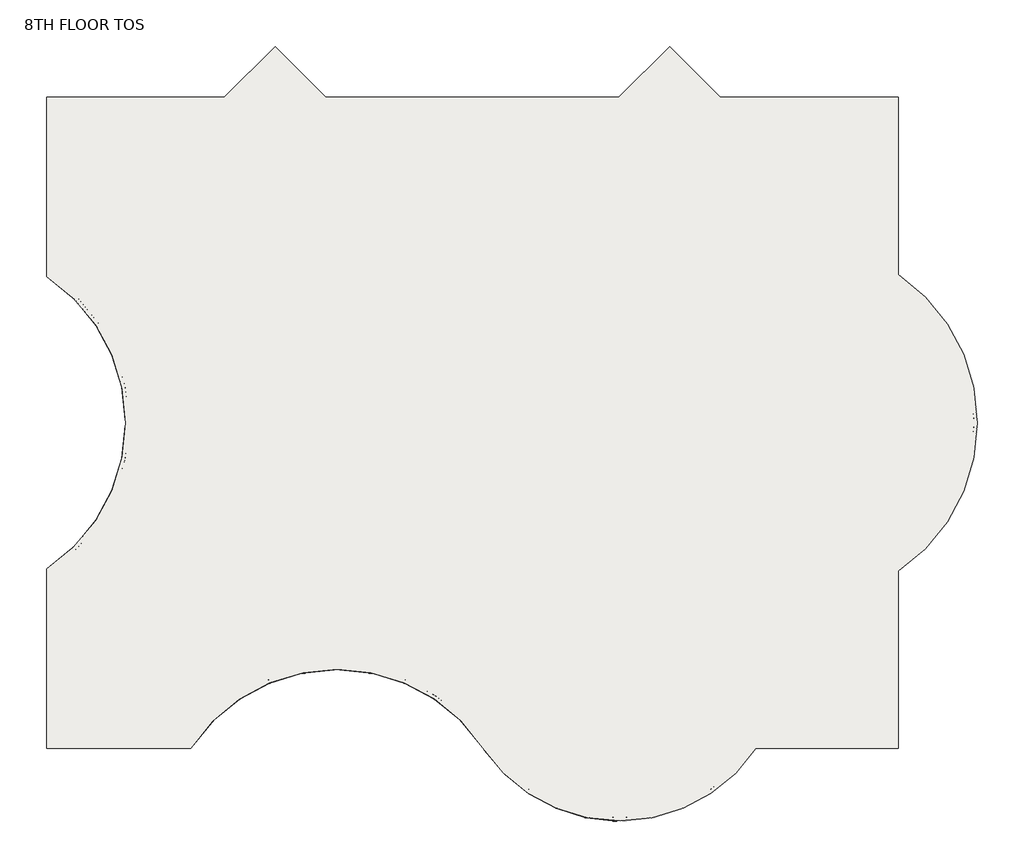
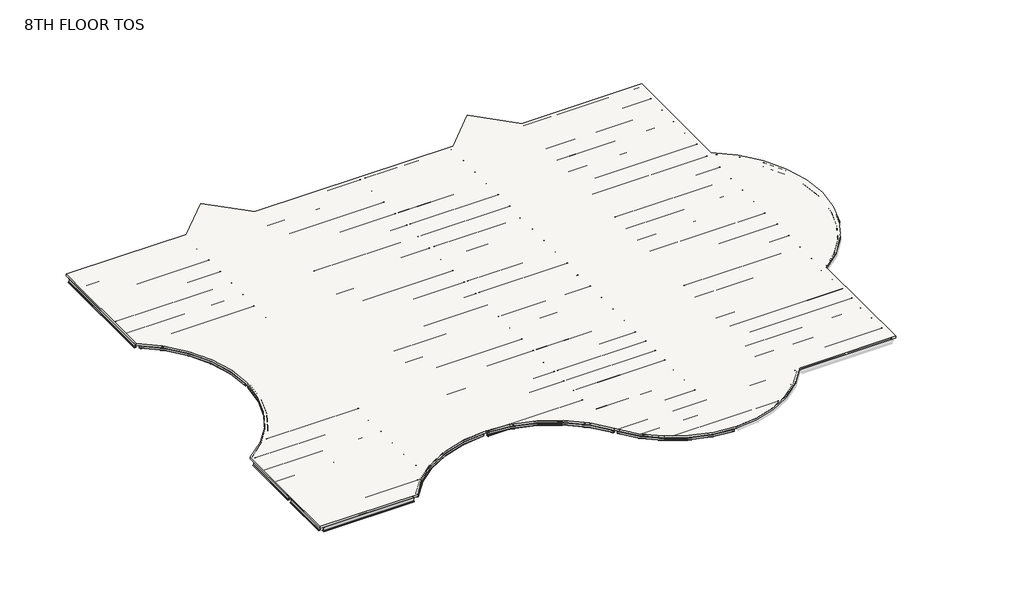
# One storey, part 1 of 2: 86 beams, 1 slab.
"""IFC4 building model written with IfcOpenShell, lengths in millimetres."""

from ifc_helpers import new_model, si_unit, frame, origin, place, context, project, spatial, polyline, circle_curve, transform, mapped, element, save
from ifc_brep_helpers import plane_surface, cylinder_surface, revolved_surface, advanced_brep
from components import m_hss_square_hss203_2x203_2x9_5_914ff4eb, m_hss_square_hss203_2x203_2x9_5_0e3d8e6e, m_hss_square_hss203_2x203_2x9_5_16dc1c03, m_hss_square_hss203_2x203_2x9_5_18346204, m_hss_square_hss203_2x203_2x9_5_d5f1e8c4, ub_universal_beams_ub254x102x28_4e7f3726, ub_universal_beams_ub305x165x40_c4d0385b, ub_universal_beams_ub305x165x40_d3abc31d, ub_universal_beams_ub305x165x40_0c73730f, ub_universal_beams_ub305x165x40_2a963f0c, ub_universal_beams_ub305x165x40_0a5f2f96, ub_universal_beams_ub305x165x40_d1f7c369, ub_universal_beams_ub305x165x40_83d7b7d5, ub_universal_beams_ub305x165x40_729a4ea5, ub_universal_beams_ub305x165x40_71dfa851, ub_universal_beams_ub305x165x40_619b5398, ub_universal_beams_ub305x165x40_c3492db1, ub_universal_beams_ub305x165x40_8f1c350d, ub_universal_beams_ub305x165x40_3afb5f90, ub_universal_beams_ub305x165x40_767d1929, ub_universal_beams_ub305x165x40_5941ca45, ub_universal_beams_ub356x171x51_ef72dcdd, ub_universal_beams_ub356x171x51_7f80702c, ub_universal_beams_ub356x171x51_dfc36663, ub_universal_beams_ub356x171x51_405a853e, ub_universal_beams_ub356x171x51_e47b7055, ub_universal_beams_ub356x171x51_e97f8d2e, ub_universal_beams_ub356x171x51_11d6b780, ub_universal_beams_ub356x171x51_76b2d20b, ub_universal_beams_ub356x171x51_145ecd4b, ub_universal_beams_ub356x171x51_c7dff8d2, ub_universal_beams_ub356x171x51_834c6e34, ub_universal_beams_ub356x171x51_a38b99de, ub_universal_beams_ub356x171x51_d8f4cdde, ub_universal_beams_ub356x171x51_8094f821, ub_universal_beams_ub356x171x51_e661f2e4, ub_universal_beams_ub356x171x51_3ee91673, ub_universal_beams_ub356x171x51_a871b283, ub_universal_beams_ub356x171x51_741bae58

model = new_model("IFC4")

# Units and contexts
model_context = context("Model", 3, world=origin())
ifc_project = project(units=[si_unit("LENGTHUNIT", "METRE", prefix="MILLI")], contexts=[model_context])

# Site, building, storey
site = spatial("IfcSite", under=ifc_project)
building = spatial("IfcBuilding", under=site)
storey = spatial("IfcBuildingStorey", under=building, Name="8TH FLOOR TOS", Elevation=36423.6)

# Beams
placement = place(None, origin())
m_hss_square_hss203_2x203_2x9_5_shape = m_hss_square_hss203_2x203_2x9_5_914ff4eb(model_context)
element("IfcBeam", 1, ObjectType="M_HSS Square : HSS203.2X203.2X9.5", at=placement, inside=storey, context=model_context, shape_type="MappedRepresentation", body=[
    mapped(m_hss_square_hss203_2x203_2x9_5_shape, transform((22710.575, 155.575, 36322.1), x_axis=(-0.552849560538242, 0.8332810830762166, 0.0), y_axis=(-0.8332810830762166, -0.552849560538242, 0.0), z_axis=(0.0, 0.0, 1.0))),
])
m_hss_square_hss203_2x203_2x9_5_2_shape = m_hss_square_hss203_2x203_2x9_5_0e3d8e6e(model_context)
element("IfcBeam", 2, ObjectType="M_HSS Square : HSS203.2X203.2X9.5", at=placement, inside=storey, context=model_context, shape_type="MappedRepresentation", body=[
    mapped(m_hss_square_hss203_2x203_2x9_5_2_shape, transform((155.575, 9299.575, 36322.1), x_axis=(0.8332810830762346, 0.5528495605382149, 0.0), y_axis=(-0.5528495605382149, 0.8332810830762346, 0.0), z_axis=(0.0, 0.0, 1.0))),
])
m_hss_square_hss203_2x203_2x9_5_3_shape = m_hss_square_hss203_2x203_2x9_5_16dc1c03(model_context)
element("IfcBeam", 3, ObjectType="M_HSS Square : HSS203.2X203.2X9.5", at=placement, inside=storey, context=model_context, shape_type="MappedRepresentation", body=[
    mapped(m_hss_square_hss203_2x203_2x9_5_3_shape, transform((155.575, 24539.575, 36322.1), x_axis=(0.8332810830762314, -0.5528495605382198, 0.0), y_axis=(0.5528495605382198, 0.8332810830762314, 0.0), z_axis=(0.0, 0.0, 1.0))),
])
m_hss_square_hss203_2x203_2x9_5_4_shape = m_hss_square_hss203_2x203_2x9_5_18346204(model_context)
element("IfcBeam", 4, ObjectType="M_HSS Square : HSS203.2X203.2X9.5", at=placement, inside=storey, context=model_context, shape_type="MappedRepresentation", body=[
    mapped(m_hss_square_hss203_2x203_2x9_5_4_shape, transform((29734.7266693, -3601.398624, 36322.1), x_axis=(-0.9999968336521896, -0.0025164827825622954, 0.0), y_axis=(0.0025164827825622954, -0.9999968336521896, 0.0), z_axis=(0.0, 0.0, 1.0))),
])
m_hss_square_hss203_2x203_2x9_5_5_shape = m_hss_square_hss203_2x203_2x9_5_d5f1e8c4(model_context)
element("IfcBeam", 5, ObjectType="M_HSS Square : HSS203.2X203.2X9.5", at=placement, inside=storey, context=model_context, shape_type="MappedRepresentation", body=[
    mapped(m_hss_square_hss203_2x203_2x9_5_5_shape, transform((15096.4572854, 4244.5731081, 36322.1), x_axis=(-0.9999997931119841, 0.0006432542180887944, 0.0), y_axis=(-0.0006432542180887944, -0.9999997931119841, 0.0), z_axis=(0.0, 0.0, 1.0))),
])
ub_universal_beams_ub254x102x28_shape = ub_universal_beams_ub254x102x28_4e7f3726(model_context)
element("IfcBeam", 6, ObjectType="UB-Universal Beams : UB254x102x28", at=placement, inside=storey, context=model_context, shape_type="MappedRepresentation", body=[
    mapped(ub_universal_beams_ub254x102x28_shape, transform((9299.575, 3210.915913, 36293.4), x_axis=(0.0, -1.0, 0.0), y_axis=(1.0, 0.0, 0.0), z_axis=(0.0, 0.0, 1.0))),
])
ub_universal_beams_ub305x165x40_shape = ub_universal_beams_ub305x165x40_c4d0385b(model_context)
element("IfcBeam", 7, ObjectType="UB-Universal Beams : UB305x165x40", at=placement, inside=storey, context=model_context, shape_type="MappedRepresentation", body=[
    mapped(ub_universal_beams_ub305x165x40_shape, transform((4727.575, 30635.575, 36271.9), x_axis=(1.0, 0.0, 0.0), y_axis=(0.0, 1.0, 0.0), z_axis=(0.0, 0.0, 1.0))),
])
element("IfcBeam", 8, ObjectType="UB-Universal Beams : UB305x165x40", at=placement, inside=storey, context=model_context, shape_type="MappedRepresentation", body=[
    mapped(ub_universal_beams_ub305x165x40_shape, transform((4727.575, 29111.575, 36271.9), x_axis=(1.0, 0.0, 0.0), y_axis=(0.0, 1.0, 0.0), z_axis=(0.0, 0.0, 1.0))),
])
element("IfcBeam", 9, ObjectType="UB-Universal Beams : UB305x165x40", at=placement, inside=storey, context=model_context, shape_type="MappedRepresentation", body=[
    mapped(ub_universal_beams_ub305x165x40_shape, transform((4727.575, 27587.575, 36271.9), x_axis=(1.0, 0.0, 0.0), y_axis=(0.0, 1.0, 0.0), z_axis=(0.0, 0.0, 1.0))),
])
element("IfcBeam", 10, ObjectType="UB-Universal Beams : UB305x165x40", at=placement, inside=storey, context=model_context, shape_type="MappedRepresentation", body=[
    mapped(ub_universal_beams_ub305x165x40_shape, transform((4727.575, 26063.575, 36271.9), x_axis=(1.0, 0.0, 0.0), y_axis=(0.0, 1.0, 0.0), z_axis=(0.0, 0.0, 1.0))),
])
element("IfcBeam", 11, ObjectType="UB-Universal Beams : UB305x165x40", at=placement, inside=storey, context=model_context, shape_type="MappedRepresentation", body=[
    mapped(ub_universal_beams_ub305x165x40_shape, transform((4727.575, 4727.575, 36271.9), x_axis=(-1.0, 0.0, 0.0), y_axis=(0.0, -1.0, 0.0), z_axis=(0.0, 0.0, 1.0))),
])
element("IfcBeam", 12, ObjectType="UB-Universal Beams : UB305x165x40", at=placement, inside=storey, context=model_context, shape_type="MappedRepresentation", body=[
    mapped(ub_universal_beams_ub305x165x40_shape, transform((4727.575, 6251.575, 36271.9), x_axis=(-1.0, 0.0, 0.0), y_axis=(0.0, -1.0, 0.0), z_axis=(0.0, 0.0, 1.0))),
])
element("IfcBeam", 13, ObjectType="UB-Universal Beams : UB305x165x40", at=placement, inside=storey, context=model_context, shape_type="MappedRepresentation", body=[
    mapped(ub_universal_beams_ub305x165x40_shape, transform((4727.575, 7775.575, 36271.9), x_axis=(-1.0, 0.0, 0.0), y_axis=(0.0, -1.0, 0.0), z_axis=(0.0, 0.0, 1.0))),
])
ub_universal_beams_ub305x165x40_2_shape = ub_universal_beams_ub305x165x40_d3abc31d(model_context)
element("IfcBeam", 14, ObjectType="UB-Universal Beams : UB305x165x40", at=placement, inside=storey, context=model_context, shape_type="MappedRepresentation", body=[
    mapped(ub_universal_beams_ub305x165x40_2_shape, transform((11885.575, 28938.325, 36271.9), x_axis=(1.0, 0.0, 0.0), y_axis=(0.0, 1.0, 0.0), z_axis=(0.0, 0.0, 1.0))),
])
element("IfcBeam", 15, ObjectType="UB-Universal Beams : UB305x165x40", at=placement, inside=storey, context=model_context, shape_type="MappedRepresentation", body=[
    mapped(ub_universal_beams_ub305x165x40_2_shape, transform((11885.575, 27472.075, 36271.9), x_axis=(1.0, 0.0, 0.0), y_axis=(0.0, 1.0, 0.0), z_axis=(0.0, 0.0, 1.0))),
])
element("IfcBeam", 16, ObjectType="UB-Universal Beams : UB305x165x40", at=placement, inside=storey, context=model_context, shape_type="MappedRepresentation", body=[
    mapped(ub_universal_beams_ub305x165x40_2_shape, transform((11885.575, 26005.825, 36271.9), x_axis=(1.0, 0.0, 0.0), y_axis=(0.0, 1.0, 0.0), z_axis=(0.0, 0.0, 1.0))),
])
element("IfcBeam", 17, ObjectType="UB-Universal Beams : UB305x165x40", at=placement, inside=storey, context=model_context, shape_type="MappedRepresentation", body=[
    mapped(ub_universal_beams_ub305x165x40_2_shape, transform((11885.575, 23015.575, 36271.9), x_axis=(1.0, 0.0, 0.0), y_axis=(0.0, 1.0, 0.0), z_axis=(0.0, 0.0, 1.0))),
])
element("IfcBeam", 18, ObjectType="UB-Universal Beams : UB305x165x40", at=placement, inside=storey, context=model_context, shape_type="MappedRepresentation", body=[
    mapped(ub_universal_beams_ub305x165x40_2_shape, transform((11885.575, 21491.575, 36271.9), x_axis=(1.0, 0.0, 0.0), y_axis=(0.0, 1.0, 0.0), z_axis=(0.0, 0.0, 1.0))),
])
element("IfcBeam", 19, ObjectType="UB-Universal Beams : UB305x165x40", at=placement, inside=storey, context=model_context, shape_type="MappedRepresentation", body=[
    mapped(ub_universal_beams_ub305x165x40_2_shape, transform((11885.575, 19967.575, 36271.9), x_axis=(1.0, 0.0, 0.0), y_axis=(0.0, 1.0, 0.0), z_axis=(0.0, 0.0, 1.0))),
])
element("IfcBeam", 20, ObjectType="UB-Universal Beams : UB305x165x40", at=placement, inside=storey, context=model_context, shape_type="MappedRepresentation", body=[
    mapped(ub_universal_beams_ub305x165x40_2_shape, transform((11885.575, 18443.575, 36271.9), x_axis=(1.0, 0.0, 0.0), y_axis=(0.0, 1.0, 0.0), z_axis=(0.0, 0.0, 1.0))),
])
element("IfcBeam", 21, ObjectType="UB-Universal Beams : UB305x165x40", at=placement, inside=storey, context=model_context, shape_type="MappedRepresentation", body=[
    mapped(ub_universal_beams_ub305x165x40_2_shape, transform((11885.575, 15395.575, 36271.9), x_axis=(1.0, 0.0, 0.0), y_axis=(0.0, 1.0, 0.0), z_axis=(0.0, 0.0, 1.0))),
])
element("IfcBeam", 22, ObjectType="UB-Universal Beams : UB305x165x40", at=placement, inside=storey, context=model_context, shape_type="MappedRepresentation", body=[
    mapped(ub_universal_beams_ub305x165x40_2_shape, transform((11885.575, 13871.575, 36271.9), x_axis=(1.0, 0.0, 0.0), y_axis=(0.0, 1.0, 0.0), z_axis=(0.0, 0.0, 1.0))),
])
element("IfcBeam", 23, ObjectType="UB-Universal Beams : UB305x165x40", at=placement, inside=storey, context=model_context, shape_type="MappedRepresentation", body=[
    mapped(ub_universal_beams_ub305x165x40_2_shape, transform((11885.575, 12347.575, 36271.9), x_axis=(1.0, 0.0, 0.0), y_axis=(0.0, 1.0, 0.0), z_axis=(0.0, 0.0, 1.0))),
])
element("IfcBeam", 24, ObjectType="UB-Universal Beams : UB305x165x40", at=placement, inside=storey, context=model_context, shape_type="MappedRepresentation", body=[
    mapped(ub_universal_beams_ub305x165x40_2_shape, transform((11885.575, 10823.575, 36271.9), x_axis=(1.0, 0.0, 0.0), y_axis=(0.0, 1.0, 0.0), z_axis=(0.0, 0.0, 1.0))),
])
element("IfcBeam", 25, ObjectType="UB-Universal Beams : UB305x165x40", at=placement, inside=storey, context=model_context, shape_type="MappedRepresentation", body=[
    mapped(ub_universal_beams_ub305x165x40_2_shape, transform((11885.575, 5026.1840956, 36271.9), x_axis=(-1.0, 0.0, 0.0), y_axis=(0.0, -1.0, 0.0), z_axis=(0.0, 0.0, 1.0))),
])
element("IfcBeam", 26, ObjectType="UB-Universal Beams : UB305x165x40", at=placement, inside=storey, context=model_context, shape_type="MappedRepresentation", body=[
    mapped(ub_universal_beams_ub305x165x40_2_shape, transform((11885.575, 6450.6477304, 36271.9), x_axis=(-1.0, 0.0, 0.0), y_axis=(0.0, -1.0, 0.0), z_axis=(0.0, 0.0, 1.0))),
])
element("IfcBeam", 27, ObjectType="UB-Universal Beams : UB305x165x40", at=placement, inside=storey, context=model_context, shape_type="MappedRepresentation", body=[
    mapped(ub_universal_beams_ub305x165x40_2_shape, transform((11885.575, 7875.1113652, 36271.9), x_axis=(-1.0, 0.0, 0.0), y_axis=(0.0, -1.0, 0.0), z_axis=(0.0, 0.0, 1.0))),
])
ub_universal_beams_ub305x165x40_3_shape = ub_universal_beams_ub305x165x40_0c73730f(model_context)
element("IfcBeam", 28, ObjectType="UB-Universal Beams : UB305x165x40", at=placement, inside=storey, context=model_context, shape_type="MappedRepresentation", body=[
    mapped(ub_universal_beams_ub305x165x40_3_shape, transform((18591.075, 5492.5943214, 36271.9), x_axis=(-1.0, 0.0, 0.0), y_axis=(0.0, -1.0, 0.0), z_axis=(0.0, 0.0, 1.0))),
])
element("IfcBeam", 29, ObjectType="UB-Universal Beams : UB305x165x40", at=placement, inside=storey, context=model_context, shape_type="MappedRepresentation", body=[
    mapped(ub_universal_beams_ub305x165x40_3_shape, transform((18591.075, 6761.5878809, 36271.9), x_axis=(-1.0, 0.0, 0.0), y_axis=(0.0, -1.0, 0.0), z_axis=(0.0, 0.0, 1.0))),
])
element("IfcBeam", 30, ObjectType="UB-Universal Beams : UB305x165x40", at=placement, inside=storey, context=model_context, shape_type="MappedRepresentation", body=[
    mapped(ub_universal_beams_ub305x165x40_3_shape, transform((18591.075, 8030.5814405, 36271.9), x_axis=(-1.0, 0.0, 0.0), y_axis=(0.0, -1.0, 0.0), z_axis=(0.0, 0.0, 1.0))),
])
element("IfcBeam", 31, ObjectType="UB-Universal Beams : UB305x165x40", at=placement, inside=storey, context=model_context, shape_type="MappedRepresentation", body=[
    mapped(ub_universal_beams_ub305x165x40_3_shape, transform((18591.075, 15395.575, 36271.9), x_axis=(1.0, 0.0, 0.0), y_axis=(0.0, 1.0, 0.0), z_axis=(0.0, 0.0, 1.0))),
])
element("IfcBeam", 32, ObjectType="UB-Universal Beams : UB305x165x40", at=placement, inside=storey, context=model_context, shape_type="MappedRepresentation", body=[
    mapped(ub_universal_beams_ub305x165x40_3_shape, transform((18591.075, 13871.575, 36271.9), x_axis=(1.0, 0.0, 0.0), y_axis=(0.0, 1.0, 0.0), z_axis=(0.0, 0.0, 1.0))),
])
element("IfcBeam", 33, ObjectType="UB-Universal Beams : UB305x165x40", at=placement, inside=storey, context=model_context, shape_type="MappedRepresentation", body=[
    mapped(ub_universal_beams_ub305x165x40_3_shape, transform((18591.075, 12347.575, 36271.9), x_axis=(1.0, 0.0, 0.0), y_axis=(0.0, 1.0, 0.0), z_axis=(0.0, 0.0, 1.0))),
])
element("IfcBeam", 34, ObjectType="UB-Universal Beams : UB305x165x40", at=placement, inside=storey, context=model_context, shape_type="MappedRepresentation", body=[
    mapped(ub_universal_beams_ub305x165x40_3_shape, transform((18591.075, 10823.575, 36271.9), x_axis=(1.0, 0.0, 0.0), y_axis=(0.0, 1.0, 0.0), z_axis=(0.0, 0.0, 1.0))),
])
ub_universal_beams_ub305x165x40_4_shape = ub_universal_beams_ub305x165x40_2a963f0c(model_context)
element("IfcBeam", 35, ObjectType="UB-Universal Beams : UB305x165x40", at=placement, inside=storey, context=model_context, shape_type="MappedRepresentation", body=[
    mapped(ub_universal_beams_ub305x165x40_4_shape, transform((26211.075, 15395.575, 36271.9), x_axis=(1.0, 0.0, 0.0), y_axis=(0.0, 1.0, 0.0), z_axis=(0.0, 0.0, 1.0))),
])
element("IfcBeam", 36, ObjectType="UB-Universal Beams : UB305x165x40", at=placement, inside=storey, context=model_context, shape_type="MappedRepresentation", body=[
    mapped(ub_universal_beams_ub305x165x40_4_shape, transform((26211.075, 13871.575, 36271.9), x_axis=(1.0, 0.0, 0.0), y_axis=(0.0, 1.0, 0.0), z_axis=(0.0, 0.0, 1.0))),
])
element("IfcBeam", 37, ObjectType="UB-Universal Beams : UB305x165x40", at=placement, inside=storey, context=model_context, shape_type="MappedRepresentation", body=[
    mapped(ub_universal_beams_ub305x165x40_4_shape, transform((26211.075, 12347.575, 36271.9), x_axis=(1.0, 0.0, 0.0), y_axis=(0.0, 1.0, 0.0), z_axis=(0.0, 0.0, 1.0))),
])
element("IfcBeam", 38, ObjectType="UB-Universal Beams : UB305x165x40", at=placement, inside=storey, context=model_context, shape_type="MappedRepresentation", body=[
    mapped(ub_universal_beams_ub305x165x40_4_shape, transform((26211.075, 10823.575, 36271.9), x_axis=(1.0, 0.0, 0.0), y_axis=(0.0, 1.0, 0.0), z_axis=(0.0, 0.0, 1.0))),
])
element("IfcBeam", 39, ObjectType="UB-Universal Beams : UB305x165x40", at=placement, inside=storey, context=model_context, shape_type="MappedRepresentation", body=[
    mapped(ub_universal_beams_ub305x165x40_4_shape, transform((26211.075, 5508.325, 36271.9), x_axis=(-1.0, 0.0, 0.0), y_axis=(0.0, -1.0, 0.0), z_axis=(0.0, 0.0, 1.0))),
])
element("IfcBeam", 40, ObjectType="UB-Universal Beams : UB305x165x40", at=placement, inside=storey, context=model_context, shape_type="MappedRepresentation", body=[
    mapped(ub_universal_beams_ub305x165x40_4_shape, transform((26211.075, 6772.075, 36271.9), x_axis=(-1.0, 0.0, 0.0), y_axis=(0.0, -1.0, 0.0), z_axis=(0.0, 0.0, 1.0))),
])
element("IfcBeam", 41, ObjectType="UB-Universal Beams : UB305x165x40", at=placement, inside=storey, context=model_context, shape_type="MappedRepresentation", body=[
    mapped(ub_universal_beams_ub305x165x40_4_shape, transform((26211.075, 8035.825, 36271.9), x_axis=(-1.0, 0.0, 0.0), y_axis=(0.0, -1.0, 0.0), z_axis=(0.0, 0.0, 1.0))),
])
element("IfcBeam", 42, ObjectType="UB-Universal Beams : UB305x165x40", at=placement, inside=storey, context=model_context, shape_type="MappedRepresentation", body=[
    mapped(ub_universal_beams_ub305x165x40_4_shape, transform((26211.075, 1518.575, 36271.9), x_axis=(-1.0, 0.0, 0.0), y_axis=(0.0, -1.0, 0.0), z_axis=(0.0, 0.0, 1.0))),
])
element("IfcBeam", 43, ObjectType="UB-Universal Beams : UB305x165x40", at=placement, inside=storey, context=model_context, shape_type="MappedRepresentation", body=[
    mapped(ub_universal_beams_ub305x165x40_4_shape, transform((26211.075, 2881.575, 36271.9), x_axis=(-1.0, 0.0, 0.0), y_axis=(0.0, -1.0, 0.0), z_axis=(0.0, 0.0, 1.0))),
])
ub_universal_beams_ub305x165x40_5_shape = ub_universal_beams_ub305x165x40_0a5f2f96(model_context)
element("IfcBeam", 44, ObjectType="UB-Universal Beams : UB305x165x40", at=placement, inside=storey, context=model_context, shape_type="MappedRepresentation", body=[
    mapped(ub_universal_beams_ub305x165x40_5_shape, transform((29713.575, -2349.0918253, 36271.9), x_axis=(-1.0, 0.0, 0.0), y_axis=(0.0, -1.0, 0.0), z_axis=(0.0, 0.0, 1.0))),
])
ub_universal_beams_ub305x165x40_6_shape = ub_universal_beams_ub305x165x40_d1f7c369(model_context)
element("IfcBeam", 45, ObjectType="UB-Universal Beams : UB305x165x40", at=placement, inside=storey, context=model_context, shape_type="MappedRepresentation", body=[
    mapped(ub_universal_beams_ub305x165x40_6_shape, transform((29713.575, -1096.7584126, 36271.9), x_axis=(-1.0, 0.0, 0.0), y_axis=(0.0, -1.0, 0.0), z_axis=(0.0, 0.0, 1.0))),
])
ub_universal_beams_ub305x165x40_7_shape = ub_universal_beams_ub305x165x40_83d7b7d5(model_context)
element("IfcBeam", 46, ObjectType="UB-Universal Beams : UB305x165x40", at=placement, inside=storey, context=model_context, shape_type="MappedRepresentation", body=[
    mapped(ub_universal_beams_ub305x165x40_7_shape, transform((22157.3041106, 1518.575, 36271.9), x_axis=(-1.0, 0.0, 0.0), y_axis=(0.0, -1.0, 0.0), z_axis=(0.0, 0.0, 1.0))),
])
ub_universal_beams_ub305x165x40_8_shape = ub_universal_beams_ub305x165x40_729a4ea5(model_context)
element("IfcBeam", 47, ObjectType="UB-Universal Beams : UB305x165x40", at=placement, inside=storey, context=model_context, shape_type="MappedRepresentation", body=[
    mapped(ub_universal_beams_ub305x165x40_8_shape, transform((21302.1545844, 2881.575, 36271.9), x_axis=(-1.0, 0.0, 0.0), y_axis=(0.0, -1.0, 0.0), z_axis=(0.0, 0.0, 1.0))),
])
ub_universal_beams_ub305x165x40_9_shape = ub_universal_beams_ub305x165x40_71dfa851(model_context)
element("IfcBeam", 48, ObjectType="UB-Universal Beams : UB305x165x40", at=placement, inside=storey, context=model_context, shape_type="MappedRepresentation", body=[
    mapped(ub_universal_beams_ub305x165x40_9_shape, transform((10511.0323166, 3601.7204608, 36271.9), x_axis=(-1.0, 0.0, 0.0), y_axis=(0.0, -1.0, 0.0), z_axis=(0.0, 0.0, 1.0))),
])
ub_universal_beams_ub305x165x40_10_shape = ub_universal_beams_ub305x165x40_619b5398(model_context)
element("IfcBeam", 49, ObjectType="UB-Universal Beams : UB305x165x40", at=placement, inside=storey, context=model_context, shape_type="MappedRepresentation", body=[
    mapped(ub_universal_beams_ub305x165x40_10_shape, transform((4447.6838282, 1679.575, 36271.9), x_axis=(-1.0, 0.0, 0.0), y_axis=(0.0, -1.0, 0.0), z_axis=(0.0, 0.0, 1.0))),
])
ub_universal_beams_ub305x165x40_11_shape = ub_universal_beams_ub305x165x40_c3492db1(model_context)
element("IfcBeam", 50, ObjectType="UB-Universal Beams : UB305x165x40", at=placement, inside=storey, context=model_context, shape_type="MappedRepresentation", body=[
    mapped(ub_universal_beams_ub305x165x40_11_shape, transform((4727.575, 3203.575, 36271.9), x_axis=(-1.0, 0.0, 0.0), y_axis=(0.0, -1.0, 0.0), z_axis=(0.0, 0.0, 1.0))),
])
ub_universal_beams_ub305x165x40_12_shape = ub_universal_beams_ub305x165x40_8f1c350d(model_context)
element("IfcBeam", 51, ObjectType="UB-Universal Beams : UB305x165x40", at=placement, inside=storey, context=model_context, shape_type="MappedRepresentation", body=[
    mapped(ub_universal_beams_ub305x165x40_12_shape, transform((6708.1318611, 15395.575, 36271.9), x_axis=(1.0, 0.0, 0.0), y_axis=(0.0, 1.0, 0.0), z_axis=(0.0, 0.0, 1.0))),
])
element("IfcBeam", 52, ObjectType="UB-Universal Beams : UB305x165x40", at=placement, inside=storey, context=model_context, shape_type="MappedRepresentation", body=[
    mapped(ub_universal_beams_ub305x165x40_12_shape, transform((6708.1318611, 18443.575, 36271.9), x_axis=(1.0, 0.0, 0.0), y_axis=(0.0, 1.0, 0.0), z_axis=(0.0, 0.0, 1.0))),
])
ub_universal_beams_ub305x165x40_13_shape = ub_universal_beams_ub305x165x40_3afb5f90(model_context)
element("IfcBeam", 53, ObjectType="UB-Universal Beams : UB305x165x40", at=placement, inside=storey, context=model_context, shape_type="MappedRepresentation", body=[
    mapped(ub_universal_beams_ub305x165x40_13_shape, transform((6510.6153272, 13871.575, 36271.9), x_axis=(1.0, 0.0, 0.0), y_axis=(0.0, 1.0, 0.0), z_axis=(0.0, 0.0, 1.0))),
])
element("IfcBeam", 54, ObjectType="UB-Universal Beams : UB305x165x40", at=placement, inside=storey, context=model_context, shape_type="MappedRepresentation", body=[
    mapped(ub_universal_beams_ub305x165x40_13_shape, transform((6510.6153272, 19967.575, 36271.9), x_axis=(1.0, 0.0, 0.0), y_axis=(0.0, 1.0, 0.0), z_axis=(0.0, 0.0, 1.0))),
])
ub_universal_beams_ub305x165x40_14_shape = ub_universal_beams_ub305x165x40_767d1929(model_context)
element("IfcBeam", 55, ObjectType="UB-Universal Beams : UB305x165x40", at=placement, inside=storey, context=model_context, shape_type="MappedRepresentation", body=[
    mapped(ub_universal_beams_ub305x165x40_14_shape, transform((6159.5874928, 12347.575, 36271.9), x_axis=(1.0, 0.0, 0.0), y_axis=(0.0, 1.0, 0.0), z_axis=(0.0, 0.0, 1.0))),
])
element("IfcBeam", 56, ObjectType="UB-Universal Beams : UB305x165x40", at=placement, inside=storey, context=model_context, shape_type="MappedRepresentation", body=[
    mapped(ub_universal_beams_ub305x165x40_14_shape, transform((6159.5874928, 21491.575, 36271.9), x_axis=(1.0, 0.0, 0.0), y_axis=(0.0, 1.0, 0.0), z_axis=(0.0, 0.0, 1.0))),
])
ub_universal_beams_ub305x165x40_15_shape = ub_universal_beams_ub305x165x40_5941ca45(model_context)
element("IfcBeam", 57, ObjectType="UB-Universal Beams : UB305x165x40", at=placement, inside=storey, context=model_context, shape_type="MappedRepresentation", body=[
    mapped(ub_universal_beams_ub305x165x40_15_shape, transform((5607.9405309, 10823.575, 36271.9), x_axis=(1.0, 0.0, 0.0), y_axis=(0.0, 1.0, 0.0), z_axis=(0.0, 0.0, 1.0))),
])
element("IfcBeam", 58, ObjectType="UB-Universal Beams : UB305x165x40", at=placement, inside=storey, context=model_context, shape_type="MappedRepresentation", body=[
    mapped(ub_universal_beams_ub305x165x40_15_shape, transform((5607.9405309, 23015.575, 36271.9), x_axis=(1.0, 0.0, 0.0), y_axis=(0.0, 1.0, 0.0), z_axis=(0.0, 0.0, 1.0))),
])
ub_universal_beams_ub356x171x51_shape = ub_universal_beams_ub356x171x51_ef72dcdd(model_context)
element("IfcBeam", 59, ObjectType="UB-Universal Beams : UB356x171x51", at=placement, inside=storey, context=model_context, shape_type="MappedRepresentation", body=[
    mapped(ub_universal_beams_ub356x171x51_shape, transform((9299.575, 6772.075, 36246.1), x_axis=(0.0, -1.0, 0.0), y_axis=(1.0, 0.0, 0.0), z_axis=(0.0, 0.0, 1.0))),
])
element("IfcBeam", 60, ObjectType="UB-Universal Beams : UB356x171x51", at=placement, inside=storey, context=model_context, shape_type="MappedRepresentation", body=[
    mapped(ub_universal_beams_ub356x171x51_shape, transform((29711.575, 6772.075, 36246.1), x_axis=(0.0, 1.0, 0.0), y_axis=(-1.0, 0.0, 0.0), z_axis=(0.0, 0.0, 1.0))),
])
element("IfcBeam", 61, ObjectType="UB-Universal Beams : UB356x171x51", at=placement, inside=storey, context=model_context, shape_type="MappedRepresentation", body=[
    mapped(ub_universal_beams_ub356x171x51_shape, transform((22710.575, 6772.075, 36246.1), x_axis=(0.0, -1.0, 0.0), y_axis=(1.0, 0.0, 0.0), z_axis=(0.0, 0.0, 1.0))),
])
ub_universal_beams_ub356x171x51_2_shape = ub_universal_beams_ub356x171x51_7f80702c(model_context)
element("IfcBeam", 62, ObjectType="UB-Universal Beams : UB356x171x51", at=placement, inside=storey, context=model_context, shape_type="MappedRepresentation", body=[
    mapped(ub_universal_beams_ub356x171x51_2_shape, transform((3813.075, 155.575, 36246.1), x_axis=(-1.0, 0.0, 0.0), y_axis=(0.0, -1.0, 0.0), z_axis=(0.0, 0.0, 1.0))),
])
ub_universal_beams_ub356x171x51_3_shape = ub_universal_beams_ub356x171x51_dfc36663(model_context)
element("IfcBeam", 63, ObjectType="UB-Universal Beams : UB356x171x51", at=placement, inside=storey, context=model_context, shape_type="MappedRepresentation", body=[
    mapped(ub_universal_beams_ub356x171x51_3_shape, transform((155.575, 2200.075, 36246.1), x_axis=(0.0, 1.0, 0.0), y_axis=(-1.0, 0.0, 0.0), z_axis=(0.0, 0.0, 1.0))),
])
ub_universal_beams_ub356x171x51_4_shape = ub_universal_beams_ub356x171x51_405a853e(model_context)
element("IfcBeam", 64, ObjectType="UB-Universal Beams : UB356x171x51", at=placement, inside=storey, context=model_context, shape_type="MappedRepresentation", body=[
    mapped(ub_universal_beams_ub356x171x51_4_shape, transform((155.575, 6772.075, 36246.1), x_axis=(0.0, 1.0, 0.0), y_axis=(-1.0, 0.0, 0.0), z_axis=(0.0, 0.0, 1.0))),
])
ub_universal_beams_ub356x171x51_5_shape = ub_universal_beams_ub356x171x51_e47b7055(model_context)
element("IfcBeam", 65, ObjectType="UB-Universal Beams : UB356x171x51", at=placement, inside=storey, context=model_context, shape_type="MappedRepresentation", body=[
    mapped(ub_universal_beams_ub356x171x51_5_shape, transform((155.575, 29111.575, 36246.1), x_axis=(0.0, 1.0, 0.0), y_axis=(-1.0, 0.0, 0.0), z_axis=(0.0, 0.0, 1.0))),
])
ub_universal_beams_ub356x171x51_6_shape = ub_universal_beams_ub356x171x51_e97f8d2e(model_context)
element("IfcBeam", 66, ObjectType="UB-Universal Beams : UB356x171x51", at=placement, inside=storey, context=model_context, shape_type="MappedRepresentation", body=[
    mapped(ub_universal_beams_ub356x171x51_6_shape, transform((4727.575, 24539.575, 36246.1), x_axis=(1.0, 0.0, 0.0), y_axis=(0.0, 1.0, 0.0), z_axis=(0.0, 0.0, 1.0))),
])
ub_universal_beams_ub356x171x51_7_shape = ub_universal_beams_ub356x171x51_11d6b780(model_context)
element("IfcBeam", 67, ObjectType="UB-Universal Beams : UB356x171x51", at=placement, inside=storey, context=model_context, shape_type="MappedRepresentation", body=[
    mapped(ub_universal_beams_ub356x171x51_7_shape, transform((11885.575, 24539.575, 36246.1), x_axis=(1.0, 0.0, 0.0), y_axis=(0.0, 1.0, 0.0), z_axis=(0.0, 0.0, 1.0))),
])
element("IfcBeam", 68, ObjectType="UB-Universal Beams : UB356x171x51", at=placement, inside=storey, context=model_context, shape_type="MappedRepresentation", body=[
    mapped(ub_universal_beams_ub356x171x51_7_shape, transform((11885.575, 9299.575, 36246.1), x_axis=(-1.0, 0.0, 0.0), y_axis=(0.0, -1.0, 0.0), z_axis=(0.0, 0.0, 1.0))),
])
element("IfcBeam", 69, ObjectType="UB-Universal Beams : UB356x171x51", at=placement, inside=storey, context=model_context, shape_type="MappedRepresentation", body=[
    mapped(ub_universal_beams_ub356x171x51_7_shape, transform((11885.575, 16919.575, 36246.1), x_axis=(1.0, 0.0, 0.0), y_axis=(0.0, 1.0, 0.0), z_axis=(0.0, 0.0, 1.0))),
])
ub_universal_beams_ub356x171x51_8_shape = ub_universal_beams_ub356x171x51_76b2d20b(model_context)
element("IfcBeam", 70, ObjectType="UB-Universal Beams : UB356x171x51", at=placement, inside=storey, context=model_context, shape_type="MappedRepresentation", body=[
    mapped(ub_universal_beams_ub356x171x51_8_shape, transform((18591.075, 9299.575, 36246.1), x_axis=(-1.0, 0.0, 0.0), y_axis=(0.0, -1.0, 0.0), z_axis=(0.0, 0.0, 1.0))),
])
ub_universal_beams_ub356x171x51_9_shape = ub_universal_beams_ub356x171x51_145ecd4b(model_context)
element("IfcBeam", 71, ObjectType="UB-Universal Beams : UB356x171x51", at=placement, inside=storey, context=model_context, shape_type="MappedRepresentation", body=[
    mapped(ub_universal_beams_ub356x171x51_9_shape, transform((26211.075, 9299.575, 36246.1), x_axis=(-1.0, 0.0, 0.0), y_axis=(0.0, -1.0, 0.0), z_axis=(0.0, 0.0, 1.0))),
])
element("IfcBeam", 72, ObjectType="UB-Universal Beams : UB356x171x51", at=placement, inside=storey, context=model_context, shape_type="MappedRepresentation", body=[
    mapped(ub_universal_beams_ub356x171x51_9_shape, transform((26211.075, 4244.575, 36246.1), x_axis=(-1.0, 0.0, 0.0), y_axis=(0.0, -1.0, 0.0), z_axis=(0.0, 0.0, 1.0))),
])
ub_universal_beams_ub356x171x51_10_shape = ub_universal_beams_ub356x171x51_c7dff8d2(model_context)
element("IfcBeam", 73, ObjectType="UB-Universal Beams : UB356x171x51", at=placement, inside=storey, context=model_context, shape_type="MappedRepresentation", body=[
    mapped(ub_universal_beams_ub356x171x51_10_shape, transform((4727.575, 9299.575, 36246.1), x_axis=(-1.0, 0.0, 0.0), y_axis=(0.0, -1.0, 0.0), z_axis=(0.0, 0.0, 1.0))),
])
ub_universal_beams_ub356x171x51_11_shape = ub_universal_beams_ub356x171x51_834c6e34(model_context)
element("IfcBeam", 74, ObjectType="UB-Universal Beams : UB356x171x51", at=placement, inside=storey, context=model_context, shape_type="MappedRepresentation", body=[
    mapped(ub_universal_beams_ub356x171x51_11_shape, transform((14471.575, 6761.5878809, 36246.1), x_axis=(0.0, -1.0, 0.0), y_axis=(1.0, 0.0, 0.0), z_axis=(0.0, 0.0, 1.0))),
])
ub_universal_beams_ub356x171x51_12_shape = ub_universal_beams_ub356x171x51_a38b99de(model_context)
element("IfcBeam", 75, ObjectType="UB-Universal Beams : UB356x171x51", at=placement, inside=storey, context=model_context, shape_type="MappedRepresentation", body=[
    mapped(ub_universal_beams_ub356x171x51_12_shape, transform((9299.575, 13109.575, 36246.1), x_axis=(0.0, 1.0, 0.0), y_axis=(-1.0, 0.0, 0.0), z_axis=(0.0, 0.0, 1.0))),
])
element("IfcBeam", 76, ObjectType="UB-Universal Beams : UB356x171x51", at=placement, inside=storey, context=model_context, shape_type="MappedRepresentation", body=[
    mapped(ub_universal_beams_ub356x171x51_12_shape, transform((9299.575, 20729.575, 36246.1), x_axis=(0.0, 1.0, 0.0), y_axis=(-1.0, 0.0, 0.0), z_axis=(0.0, 0.0, 1.0))),
])
element("IfcBeam", 77, ObjectType="UB-Universal Beams : UB356x171x51", at=placement, inside=storey, context=model_context, shape_type="MappedRepresentation", body=[
    mapped(ub_universal_beams_ub356x171x51_12_shape, transform((14471.575, 20729.575, 36246.1), x_axis=(0.0, -1.0, 0.0), y_axis=(1.0, 0.0, 0.0), z_axis=(0.0, 0.0, 1.0))),
])
element("IfcBeam", 78, ObjectType="UB-Universal Beams : UB356x171x51", at=placement, inside=storey, context=model_context, shape_type="MappedRepresentation", body=[
    mapped(ub_universal_beams_ub356x171x51_12_shape, transform((14471.575, 13109.575, 36246.1), x_axis=(0.0, -1.0, 0.0), y_axis=(1.0, 0.0, 0.0), z_axis=(0.0, 0.0, 1.0))),
])
element("IfcBeam", 79, ObjectType="UB-Universal Beams : UB356x171x51", at=placement, inside=storey, context=model_context, shape_type="MappedRepresentation", body=[
    mapped(ub_universal_beams_ub356x171x51_12_shape, transform((22710.575, 13109.575, 36246.1), x_axis=(0.0, -1.0, 0.0), y_axis=(1.0, 0.0, 0.0), z_axis=(0.0, 0.0, 1.0))),
])
element("IfcBeam", 80, ObjectType="UB-Universal Beams : UB356x171x51", at=placement, inside=storey, context=model_context, shape_type="MappedRepresentation", body=[
    mapped(ub_universal_beams_ub356x171x51_12_shape, transform((29711.575, 13109.575, 36246.1), x_axis=(0.0, 1.0, 0.0), y_axis=(-1.0, 0.0, 0.0), z_axis=(0.0, 0.0, 1.0))),
])
ub_universal_beams_ub356x171x51_13_shape = ub_universal_beams_ub356x171x51_d8f4cdde(model_context)
element("IfcBeam", 81, ObjectType="UB-Universal Beams : UB356x171x51", at=placement, inside=storey, context=model_context, shape_type="MappedRepresentation", body=[
    mapped(ub_universal_beams_ub356x171x51_13_shape, transform((9299.575, 29111.575, 36246.1), x_axis=(0.0, 1.0, 0.0), y_axis=(-1.0, 0.0, 0.0), z_axis=(0.0, 0.0, 1.0))),
])
ub_universal_beams_ub356x171x51_14_shape = ub_universal_beams_ub356x171x51_8094f821(model_context)
element("IfcBeam", 82, ObjectType="UB-Universal Beams : UB356x171x51", at=placement, inside=storey, context=model_context, shape_type="MappedRepresentation", body=[
    mapped(ub_universal_beams_ub356x171x51_14_shape, transform((6772.075, 16919.575, 36246.1), x_axis=(1.0, 0.0, 0.0), y_axis=(0.0, 1.0, 0.0), z_axis=(0.0, 0.0, 1.0))),
])
ub_universal_beams_ub356x171x51_15_shape = ub_universal_beams_ub356x171x51_e661f2e4(model_context)
element("IfcBeam", 83, ObjectType="UB-Universal Beams : UB356x171x51", at=placement, inside=storey, context=model_context, shape_type="MappedRepresentation", body=[
    mapped(ub_universal_beams_ub356x171x51_15_shape, transform((29713.575, 155.575, 36246.1), x_axis=(-1.0, 0.0, 0.0), y_axis=(0.0, -1.0, 0.0), z_axis=(0.0, 0.0, 1.0))),
])
ub_universal_beams_ub356x171x51_16_shape = ub_universal_beams_ub356x171x51_3ee91673(model_context)
element("IfcBeam", 84, ObjectType="UB-Universal Beams : UB356x171x51", at=placement, inside=storey, context=model_context, shape_type="MappedRepresentation", body=[
    mapped(ub_universal_beams_ub356x171x51_16_shape, transform((18900.575, 4244.575, 36246.1), x_axis=(-1.0, 0.0, 0.0), y_axis=(0.0, -1.0, 0.0), z_axis=(0.0, 0.0, 1.0))),
])
ub_universal_beams_ub356x171x51_17_shape = ub_universal_beams_ub356x171x51_a871b283(model_context)
element("IfcBeam", 85, ObjectType="UB-Universal Beams : UB356x171x51", at=placement, inside=storey, context=model_context, shape_type="MappedRepresentation", body=[
    mapped(ub_universal_beams_ub356x171x51_17_shape, transform((22710.575, 2200.075, 36246.1), x_axis=(0.0, -1.0, 0.0), y_axis=(1.0, 0.0, 0.0), z_axis=(0.0, 0.0, 1.0))),
])
ub_universal_beams_ub356x171x51_18_shape = ub_universal_beams_ub356x171x51_741bae58(model_context)
element("IfcBeam", 86, ObjectType="UB-Universal Beams : UB356x171x51", at=placement, inside=storey, context=model_context, shape_type="MappedRepresentation", body=[
    mapped(ub_universal_beams_ub356x171x51_18_shape, transform((29711.575, 2200.075, 36246.1), x_axis=(0.0, -1.0, 0.0), y_axis=(1.0, 0.0, 0.0), z_axis=(0.0, 0.0, 1.0))),
])

# Slab
element("IfcSlab", 87, ObjectType="152mm Concrete With 50mm Metal Deck", at=placement, inside=storey, context=model_context, shape_type="AdvancedBrep", body=[
    advanced_brep(
    [(69.575, 33769.575, 36423.6), (4244.575, 33769.575, 36423.6), (9263.9526336, 33769.575, 36423.6), (11885.575, 36391.1973664, 36423.6), (14507.1973664, 33769.575, 36423.6), (22710.575, 33769.575, 36423.6), (29675.9526336, 33769.575, 36423.6), (32297.575, 36391.1973664, 36423.6), (34919.1973664, 33769.575, 36423.6), (44113.575, 33769.575, 36423.6), (44113.575, 24585.5849139, 36423.6), (44113.575, 9253.5650861, 36423.6), (44113.575, 4244.575, 36423.6), (44113.575, 69.575, 36423.6), (36762.5616677, 69.575, 36423.6), (29734.9430869, -3687.3983517, 36423.6), (22638.9224102, 108.0154965, 36423.6), (15096.4019655, 4158.5731259, 36423.6), (7516.8644167, 69.575, 36423.6), (69.575, 69.575, 36423.6), (69.575, 4244.575, 36423.6), (69.575, 9345.8644167, 36423.6), (69.575, 24493.2855833, 36423.6), (69.575, 33769.575, 36575.6), (69.575, 24493.2855833, 36575.6), (69.575, 9345.8644167, 36575.6), (69.575, 4244.575, 36575.6), (69.575, 69.575, 36575.6), (7516.8644167, 69.575, 36575.6), (15096.4019655, 4158.5731259, 36575.6), (22638.9128269, 108.0299378, 36575.6), (29734.9430869, -3687.3983517, 36575.6), (36762.5616677, 69.575, 36575.6), (44113.575, 69.575, 36575.6), (44113.575, 4244.575, 36575.6), (44113.575, 9253.5650861, 36575.6), (44113.575, 24585.5849139, 36575.6), (44113.575, 33769.575, 36575.6), (34919.1973664, 33769.575, 36575.6), (32297.575, 36391.1973664, 36575.6), (29675.9526336, 33769.575, 36575.6), (22710.575, 33769.575, 36575.6), (14507.1973664, 33769.575, 36575.6), (11885.575, 36391.1973664, 36575.6), (9263.9526336, 33769.575, 36575.6), (4244.575, 33769.575, 36575.6)],
    [
        (0, 1),
        (1, 2),
        (2, 3),
        (3, 4),
        (4, 5),
        (5, 6),
        (6, 7),
        (7, 8),
        (8, 9),
        (9, 10),
        (10, 11, circle_curve(frame((38972.0016324, 16919.575, 36423.6), z_axis=(0.0, 0.0, -1.0), x_axis=(1.0, 0.0, 0.0)), 9230.5733676)),
        (11, 12),
        (12, 13),
        (13, 14),
        (14, 15, circle_curve(frame((29713.575, 4803.825732, 36423.6), z_axis=(0.0, 0.0, -1.0), x_axis=(1.0, 0.0, 0.0)), 8491.2509699)),
        (15, 16, circle_curve(frame((29713.575, 4803.825732, 36423.6), z_axis=(0.0, 0.0, -1.0), x_axis=(1.0, 0.0, 0.0)), 8491.2509699)),
        (16, 17, circle_curve(frame((15090.575, -4899.9983676, 36423.6), z_axis=(0.0, 0.0, 1.0), x_axis=(1.0, 0.0, 0.0)), 9058.5733676)),
        (17, 18, circle_curve(frame((15090.575, -4899.9983676, 36423.6), z_axis=(0.0, 0.0, 1.0), x_axis=(1.0, 0.0, 0.0)), 9058.5733676)),
        (18, 19),
        (19, 20),
        (20, 21),
        (21, 22, circle_curve(frame((-4899.9983676, 16919.575, 36423.6), z_axis=(0.0, 0.0, 1.0), x_axis=(1.0, 0.0, 0.0)), 9058.5733676)),
        (22, 0),
        (23, 24),
        (24, 25, circle_curve(frame((-4899.9983676, 16919.575, 36575.6), z_axis=(0.0, 0.0, -1.0), x_axis=(1.0, 0.0, 0.0)), 9058.5733676)),
        (25, 26),
        (26, 27),
        (27, 28),
        (28, 29, circle_curve(frame((15090.575, -4899.9983676, 36575.6), z_axis=(0.0, 0.0, -1.0), x_axis=(1.0, 0.0, 0.0)), 9058.5733676)),
        (29, 30, circle_curve(frame((15090.575, -4899.9983676, 36575.6), z_axis=(0.0, 0.0, -1.0), x_axis=(1.0, 0.0, 0.0)), 9058.5733676)),
        (30, 31, circle_curve(frame((29713.575, 4803.825732, 36575.6), z_axis=(0.0, 0.0, 1.0), x_axis=(1.0, 0.0, 0.0)), 8491.2509699)),
        (31, 32, circle_curve(frame((29713.575, 4803.825732, 36575.6), z_axis=(0.0, 0.0, 1.0), x_axis=(1.0, 0.0, 0.0)), 8491.2509699)),
        (32, 33),
        (33, 34),
        (34, 35),
        (35, 36, circle_curve(frame((38972.0016324, 16919.575, 36575.6), z_axis=(0.0, 0.0, 1.0), x_axis=(1.0, 0.0, 0.0)), 9230.5733676)),
        (36, 37),
        (37, 38),
        (38, 39),
        (39, 40),
        (40, 41),
        (41, 42),
        (42, 43),
        (43, 44),
        (44, 45),
        (45, 23),
        (0, 23),
        (45, 1),
        (44, 2),
        (43, 3),
        (42, 4),
        (41, 5),
        (40, 6),
        (39, 7),
        (38, 8),
        (37, 9),
        (36, 10),
        (35, 11),
        (34, 12),
        (33, 13),
        (32, 14),
        (31, 15),
        (30, 16),
        (29, 17),
        (28, 18),
        (27, 19),
        (26, 20),
        (25, 21),
        (24, 22),
    ],
    [
        plane_surface(frame((155.575, 33769.575, 36423.6), z_axis=(0.0, 0.0, -1.0), x_axis=(1.0, 0.0, 0.0))),
        plane_surface(frame((155.575, 33769.575, 36575.6), z_axis=(0.0, 0.0, 1.0), x_axis=(-1.0, 0.0, 0.0))),
        plane_surface(frame((69.575, 33769.575, 36423.6), z_axis=(0.0, 1.0, 0.0), x_axis=(0.0, 0.0, 1.0))),
        plane_surface(frame((4244.575, 33769.575, 36423.6), z_axis=(0.0, 1.0, 0.0), x_axis=(0.0, 0.0, 1.0))),
        plane_surface(frame((9263.9526336, 33769.575, 36423.6), z_axis=(-0.7071067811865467, 0.7071067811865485, 0.0), x_axis=(0.0, 0.0, 1.0))),
        plane_surface(frame((11885.575, 36391.1973664, 36423.6), z_axis=(0.7071067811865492, 0.7071067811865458, 0.0), x_axis=(0.0, 0.0, 1.0))),
        plane_surface(frame((14507.1973664, 33769.575, 36423.6), z_axis=(0.0, 1.0, 0.0), x_axis=(0.0, 0.0, 1.0))),
        plane_surface(frame((22710.575, 33769.575, 36423.6), z_axis=(0.0, 1.0, 0.0), x_axis=(0.0, 0.0, 1.0))),
        plane_surface(frame((29675.9526336, 33769.575, 36423.6), z_axis=(-0.7071067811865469, 0.7071067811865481, 0.0), x_axis=(0.0, 0.0, 1.0))),
        plane_surface(frame((32297.575, 36391.1973664, 36423.6), z_axis=(0.7071067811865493, 0.7071067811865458, 0.0), x_axis=(0.0, 0.0, 1.0))),
        plane_surface(frame((34919.1973664, 33769.575, 36423.6), z_axis=(0.0, 1.0, 0.0), x_axis=(0.0, 0.0, 1.0))),
        plane_surface(frame((44113.575, 33769.575, 36423.6), z_axis=(1.0, 0.0, 0.0), x_axis=(0.0, 0.0, 1.0))),
        cylinder_surface(frame((38972.0016324, 16919.575, 36575.6), z_axis=(0.0, 0.0, -1.0), x_axis=(1.0, 0.0, 0.0)), 9230.5733676),
        plane_surface(frame((44113.575, 9253.5650861, 36423.6), z_axis=(1.0, 0.0, 0.0), x_axis=(0.0, 0.0, 1.0))),
        plane_surface(frame((44113.575, 4244.575, 36423.6), z_axis=(1.0, 0.0, 0.0), x_axis=(0.0, 0.0, 1.0))),
        plane_surface(frame((44113.575, 69.575, 36423.6), z_axis=(0.0, -1.0, 0.0), x_axis=(0.0, 0.0, 1.0))),
        cylinder_surface(frame((29713.575, 4803.825732, 36575.6), z_axis=(0.0, 0.0, -1.0), x_axis=(1.0, 0.0, 0.0)), 8491.2509699),
        revolved_surface(polyline([(24149.1483676, -4899.9983676, 36575.6), (24149.1483676, -4899.9983676, 36423.6)]), (15090.575, -4899.9983676, 36575.6), (0.0, 0.0, 1.0)),
        plane_surface(frame((7516.8644167, 69.575, 36423.6), z_axis=(0.0, -1.0, 0.0), x_axis=(0.0, 0.0, 1.0))),
        plane_surface(frame((69.575, 69.575, 36423.6), z_axis=(-1.0, 0.0, 0.0), x_axis=(0.0, 0.0, 1.0))),
        plane_surface(frame((69.575, 4244.575, 36423.6), z_axis=(-1.0, 0.0, 0.0), x_axis=(0.0, 0.0, 1.0))),
        revolved_surface(polyline([(4158.575, 16919.575, 36575.6), (4158.575, 16919.575, 36423.6)]), (-4899.9983676, 16919.575, 36575.6), (0.0, 0.0, 1.0)),
        plane_surface(frame((69.575, 24493.2855833, 36423.6), z_axis=(-1.0, 0.0, 0.0), x_axis=(0.0, 0.0, 1.0))),
    ],
    [
        (0, [[1, 2, 3, 4, 5, 6, 7, 8, 9, 10, 11, 12, 13, 14, 15, 16, 17, 18, 19, 20, 21, 22, 23]]),
        (1, [[24, 25, 26, 27, 28, 29, 30, 31, 32, 33, 34, 35, 36, 37, 38, 39, 40, 41, 42, 43, 44, 45, 46]]),
        (2, [[-1, 47, -46, 48]]),
        (3, [[-2, -48, -45, 49]]),
        (4, [[-3, -49, -44, 50]]),
        (5, [[-4, -50, -43, 51]]),
        (6, [[-5, -51, -42, 52]]),
        (7, [[-6, -52, -41, 53]]),
        (8, [[-7, -53, -40, 54]]),
        (9, [[-8, -54, -39, 55]]),
        (10, [[-9, -55, -38, 56]]),
        (11, [[-10, -56, -37, 57]]),
        (12, [[-11, -57, -36, 58]]),
        (13, [[-12, -58, -35, 59]]),
        (14, [[-13, -59, -34, 60]]),
        (15, [[-14, -60, -33, 61]]),
        (16, [[-15, -61, -32, 62]]),
        (16, [[-16, -62, -31, 63]]),
        (17, [[-17, -63, -30, 64]]),
        (17, [[-18, -64, -29, 65]]),
        (18, [[-19, -65, -28, 66]]),
        (19, [[-20, -66, -27, 67]]),
        (20, [[-21, -67, -26, 68]]),
        (21, [[-22, -68, -25, 69]]),
        (22, [[-23, -69, -24, -47]]),
    ],
),
])

save(model, "model.ifc")
